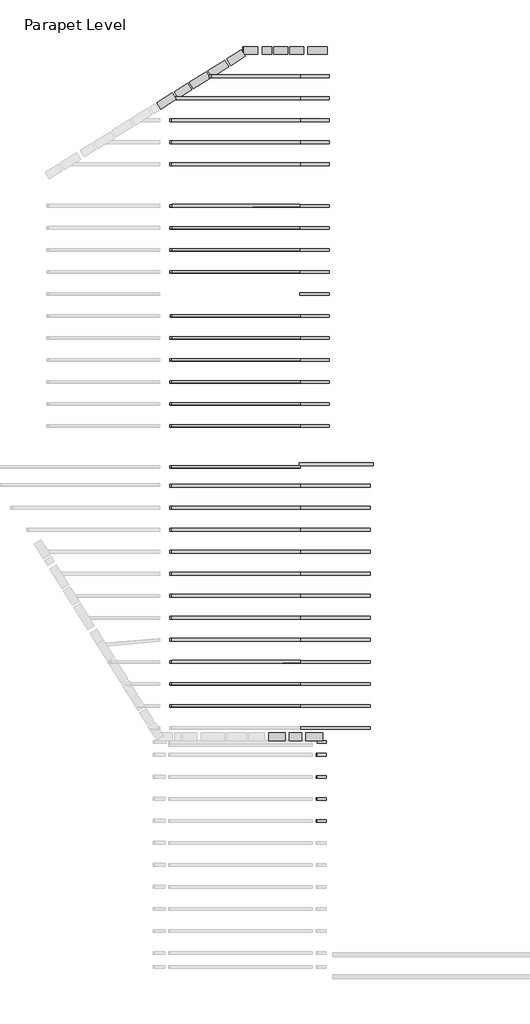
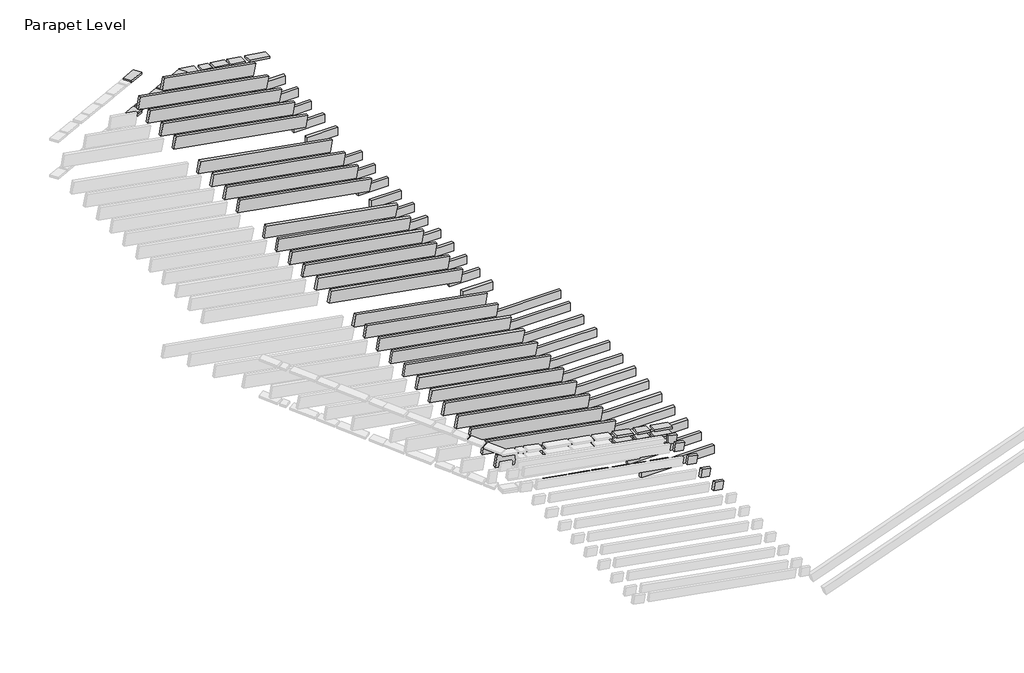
# One storey, part 4 of 4: 91 beams.
"""IFC4 building model written with IfcOpenShell, lengths in millimetres."""

from ifc_helpers import new_model, si_unit, frame, origin, place, context, project, spatial, polyline, outline, extrude, faceted_brep, transform, mapped, element, save
from components import beam_50x150_af16b9af, beam_50x150_175bfbe0, beam_50x150_b006d7be, beam_50x150_4be821b0, beam_50x150_ffa57ea8, beam_50x150_e260a1b6, beam_50x225_7f7f86ef, beam_50x225_d8450399, beam_50x225_8d1551ed, beam_50x225_024e5c33, beam_50x225_8d0f3e26

model = new_model("IFC4")

# Units and contexts
model_context = context("Model", 3, world=origin())
ifc_project = project(units=[si_unit("LENGTHUNIT", "METRE", prefix="MILLI")], contexts=[model_context])

# Site, building, storey
site = spatial("IfcSite", under=ifc_project)
building = spatial("IfcBuilding", under=site)
storey = spatial("IfcBuildingStorey", under=building, Name="Parapet Level", Elevation=4242.0)

# Beams
placement = place(None, origin())
element("IfcBeam", 1, ObjectType="Graded Timber : 38x140", at=placement, inside=storey, context=model_context, shape_type="Brep", body=[
    faceted_brep([(-30692.1893203, 18121.1963469, 3018.0119533), (-30425.1362414, 18288.0696311, 2970.9232902), (-30425.1362414, 18288.069631, 2932.5007924), (-30692.1893203, 18121.1963468, 2979.5894555), (-30618.0006214, 18002.4696146, 3018.0119533), (-30350.9475426, 18169.3428988, 2970.9232902), (-30350.9475425, 18169.3428987, 2932.5007924), (-30618.0006214, 18002.4696145, 2979.5894555)], [[[0, 1, 2, 3]], [[4, 5, 1, 0]], [[2, 1, 5, 6]], [[3, 2, 6, 7]], [[7, 6, 5, 4]], [[0, 3, 7, 4]]]),
])
element("IfcBeam", 2, ObjectType="Graded Timber : 38x140", at=placement, inside=storey, context=model_context, shape_type="Brep", body=[
    faceted_brep([(-31031.4085833, 17909.228626, 3077.8254617), (-30724.415148, 18101.0594149, 3023.6942362), (-30724.4151479, 18101.0594148, 2985.2717384), (-31031.4085833, 17909.228626, 3039.4029639), (-30957.2198844, 17790.5018938, 3077.8254617), (-30650.2264491, 17982.3326826, 3023.6942362), (-30650.226449, 17982.3326825, 2985.2717384), (-30957.2198844, 17790.5018937, 3039.4029639)], [[[0, 1, 2, 3]], [[4, 5, 1, 0]], [[2, 1, 5, 6]], [[3, 2, 6, 7]], [[7, 6, 5, 4]], [[0, 3, 7, 4]]]),
])
element("IfcBeam", 3, ObjectType="Graded Timber : 38x140", at=placement, inside=storey, context=model_context, shape_type="Brep", body=[
    faceted_brep([(-31370.6277974, 17697.2609358, 3137.6389615), (-31063.634411, 17889.091694, 3083.5077446), (-31063.6344109, 17889.0916939, 3045.0852468), (-31370.6277973, 17697.2609357, 3099.2164637), (-31296.4390985, 17578.5342035, 3137.6389615), (-30989.4457121, 17770.3649617, 3083.5077446), (-30989.445712, 17770.3649617, 3045.0852468), (-31296.4390984, 17578.5342034, 3099.2164637)], [[[0, 1, 2, 3]], [[4, 5, 1, 0]], [[2, 1, 5, 6]], [[3, 2, 6, 7]], [[7, 6, 5, 4]], [[0, 3, 7, 4]]]),
])
element("IfcBeam", 4, ObjectType="Graded Timber : 38x140", at=placement, inside=storey, context=model_context, shape_type="Brep", body=[
    faceted_brep([(-31646.2434531, 17525.0371597, 3186.2374379), (-31402.853625, 17677.1240037, 3143.3212444), (-31402.853625, 17677.1240037, 3104.8987466), (-31646.2434531, 17525.0371596, 3147.8149401), (-31572.0547543, 17406.3104274, 3186.2374379), (-31328.6649261, 17558.3972715, 3143.3212444), (-31328.6649261, 17558.3972714, 3104.8987466), (-31572.0547542, 17406.3104274, 3147.8149401)], [[[0, 1, 2, 3]], [[4, 5, 1, 0]], [[2, 1, 5, 6]], [[3, 2, 6, 7]], [[7, 6, 5, 4]], [[0, 3, 7, 4]]]),
])
element("IfcBeam", 5, ObjectType="Graded Timber : 38x140", at=placement, inside=storey, context=model_context, shape_type="Brep", body=[
    faceted_brep([(-31964.2614879, 17326.3174366, 3242.3125978), (-31964.2614878, 17326.3174365, 3203.8901), (-31890.0727889, 17207.5907043, 3203.8901), (-31890.072789, 17207.5907043, 3242.3125978), (-31678.4692808, 17504.9002277, 3191.9197208), (-31678.4692808, 17504.9002276, 3153.497223), (-31604.2805819, 17386.1734953, 3153.497223), (-31604.2805819, 17386.1734954, 3191.9197208)], [[[0, 1, 2, 3]], [[0, 4, 5, 1]], [[1, 5, 6, 2]], [[2, 6, 7, 3]], [[3, 7, 4, 0]], [[4, 7, 6, 5]]]),
])
element("IfcBeam", 6, ObjectType="Graded Timber : 38x140", at=placement, inside=storey, context=model_context, shape_type="SweptSolid", body=[
    extrude(outline(polyline([(2773.859651, -29295.5411236), (2808.7975385, -29544.1371106), (2770.4240908, -29544.1371106), (2735.4862032, -29295.5411236), (2773.859651, -29295.5411236)])), frame((0.0, 18207.3368111, 0.0), z_axis=(0.0, 1.0, 0.0), x_axis=(0.0, 0.0, 1.0)), (0.0, 0.0, 1.0), 140.0),
])
element("IfcBeam", 7, ObjectType="Graded Timber : 38x140", at=placement, inside=storey, context=model_context, shape_type="SweptSolid", body=[
    extrude(outline(polyline([(2814.1380902, -29582.1371106), (2850.1165439, -29838.1371106), (2811.7430962, -29838.1371106), (2775.7646425, -29582.1371106), (2814.1380902, -29582.1371106)])), frame((0.0, 18207.3368111, 0.0), z_axis=(0.0, 1.0, 0.0), x_axis=(0.0, 0.0, 1.0)), (0.0, 0.0, 1.0), 140.0),
])
element("IfcBeam", 8, ObjectType="Graded Timber : 38x140", at=placement, inside=storey, context=model_context, shape_type="SweptSolid", body=[
    extrude(outline(polyline([(2855.4570956, -29876.1371106), (2879.5463587, -30047.5411236), (2841.1729109, -30047.5411236), (2817.0836479, -29876.1371106), (2855.4570956, -29876.1371106)])), frame((0.0, 18207.3368111, 0.0), z_axis=(0.0, 1.0, 0.0), x_axis=(0.0, 0.0, 1.0)), (0.0, 0.0, 1.0), 140.0),
])
element("IfcBeam", 9, ObjectType="Graded Timber : 38x140", at=placement, inside=storey, context=model_context, shape_type="Brep", body=[
    faceted_brep([(-31964.2614816, 17326.3174265, 3922.5554279), (-31964.2614816, 17326.3174265, 3884.1712839), (-31890.0727827, 17207.5906942, 3884.1712836), (-31890.0727827, 17207.5906942, 3922.5554276), (-31678.4692745, 17504.9002177, 3874.5163205), (-31678.4692745, 17504.9002177, 3836.1321766), (-31604.2805756, 17386.1734854, 3836.1321762), (-31604.2805756, 17386.1734854, 3874.5163202)], [[[0, 1, 2, 3]], [[0, 4, 5, 1]], [[1, 5, 6, 2]], [[2, 6, 7, 3]], [[3, 7, 4, 0]], [[4, 7, 6, 5]]]),
])
element("IfcBeam", 10, ObjectType="Graded Timber : 38x140", at=placement, inside=storey, context=model_context, shape_type="SweptSolid", body=[
    extrude(outline(polyline([(2713.3422036, -28864.9371106), (2763.1785475, -29219.5411236), (2724.8050998, -29219.5411236), (2674.9687558, -28864.9371106), (2713.3422036, -28864.9371106)])), frame((0.0, 18207.3368111, 0.0), z_axis=(0.0, 1.0, 0.0), x_axis=(0.0, 0.0, 1.0)), (0.0, 0.0, 1.0), 140.0),
])
element("IfcBeam", 11, ObjectType="Graded Timber : 38x140", at=placement, inside=storey, context=model_context, shape_type="Brep", body=[
    faceted_brep([(-31964.2614878, 17326.3174365, 3203.8901), (-31678.4692807, 17504.9002276, 3153.497223), (-31678.4692807, 17504.9002275, 3115.0747252), (-31964.2614878, 17326.3174364, 3165.4676021), (-31890.0727889, 17207.5907042, 3203.8901), (-31604.2805818, 17386.1734953, 3153.497223), (-31604.2805818, 17386.1734952, 3115.0747252), (-31890.0727889, 17207.5907041, 3165.4676021)], [[[0, 1, 2, 3]], [[4, 5, 1, 0]], [[2, 1, 5, 6]], [[3, 2, 6, 7]], [[7, 6, 5, 4]], [[0, 3, 7, 4]]]),
])
element("IfcBeam", 12, ObjectType="Graded Timber : 38x140", at=placement, inside=storey, context=model_context, shape_type="SweptSolid", body=[
    extrude(outline(polyline([(43.5184454, 0.0), (275.035557, 0.0), (281.7358327, -38.0), (50.218721, -38.0), (43.5184454, 0.0)])), frame((-29285.0797794, 5877.1468145, 3398.3198085), z_axis=(0.0, -0.9999993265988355, 0.0011605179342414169), x_axis=(-0.9848084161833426, 0.00020151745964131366, 0.17364429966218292)), (0.0, 0.0, 1.0), 140.0),
])
element("IfcBeam", 13, ObjectType="Graded Timber : 38x140", at=placement, inside=storey, context=model_context, shape_type="SweptSolid", body=[
    extrude(outline(polyline([(77.3704853, -1e-07), (376.9211341, 0.0), (383.6214097, -38.0000001), (84.0707609, -38.0), (77.3704853, -1e-07)])), frame((-29555.7420056, 5877.0078045, 3446.0439893), z_axis=(0.0, -0.9999993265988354, 0.0011605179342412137), x_axis=(-0.98480841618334, 0.00020151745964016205, 0.17364429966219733)), (0.0, 0.0, 1.0), 140.0),
])
element("IfcBeam", 14, ObjectType="Graded Timber : 38x140", at=placement, inside=storey, context=model_context, shape_type="SweptSolid", body=[
    extrude(outline(polyline([(79.3339472, 0.0), (391.5774041, 0.0), (398.2776797, -37.9999999), (86.0342228, -38.0), (79.3339472, 0.0)])), frame((-28866.3083876, 5876.5061792, 3201.3867289), z_axis=(0.0, -0.9999993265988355, 0.0011605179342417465), x_axis=(-0.9848084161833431, 0.0002015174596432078, 0.1736442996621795)), (0.0, 0.0, 1.0), 140.0),
])
element("IfcBeam", 15, ObjectType="Graded Timber : 38x140", at=placement, inside=storey, context=model_context, shape_type="SweptSolid", body=[
    extrude(outline(polyline([(21.8287626, 0.0), (321.3794114, 0.0), (328.079687, -38.0), (28.5290382, -38.0), (21.8287626, 0.0)])), frame((-29610.4399616, 5876.6584479, 3332.7580372), z_axis=(0.0, -0.9999993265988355, 0.0011605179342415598), x_axis=(-0.9848084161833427, 0.000201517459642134, 0.17364429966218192)), (0.0, 0.0, 1.0), 140.0),
])
element("IfcBeam", 16, ObjectType="Graded Timber : 38x140", at=placement, inside=storey, context=model_context, shape_type="SweptSolid", body=[
    extrude(outline(polyline([(79.3552138, -1e-07), (513.7356259, 0.0), (520.4359016, -38.0), (86.0554894, -38.0), (79.3552138, -1e-07)])), frame((-30649.0059426, 5876.869041, 3477.3027108), z_axis=(0.0, -0.9999993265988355, 0.0011605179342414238), x_axis=(-0.9848084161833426, 0.00020151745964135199, 0.17364429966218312)), (0.0, 0.0, 1.0), 140.0),
])
element("IfcBeam", 17, ObjectType="Graded Timber : 38x140", at=placement, inside=storey, context=model_context, shape_type="SweptSolid", body=[
    extrude(outline(polyline([(10.1287882, 0.0), (377.7129742, 0.0), (384.4132498, -38.0), (16.8290639, -38.0), (10.1287882, 0.0)])), frame((-30317.1807091, 5876.8012889, 3418.6285976), z_axis=(0.0, -0.9999993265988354, 0.0011605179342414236), x_axis=(-0.9848084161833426, 0.00020151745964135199, 0.17364429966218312)), (0.0, 0.0, 1.0), 140.0),
])
element("IfcBeam", 18, ObjectType="Graded Timber : 38x140", at=placement, inside=storey, context=model_context, shape_type="SweptSolid", body=[
    extrude(outline(polyline([(205.8966171, 0.0), (496.5303176, 0.0), (503.2305933, -38.0), (212.5968928, -38.0), (205.8966171, 0.0)])), frame((-29800.1683893, 5876.6383504, 3327.6283234), z_axis=(0.0, -0.9999993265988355, 0.001160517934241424), x_axis=(-0.9848084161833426, 0.00020151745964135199, 0.17364429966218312)), (0.0, 0.0, 1.0), 140.0),
])
element("IfcBeam", 19, ObjectType="Graded Timber : 38x140", at=placement, inside=storey, context=model_context, shape_type="SweptSolid", body=[
    extrude(outline(polyline([(49.0694342, -1e-07), (280.5865458, -1e-07), (287.2868215, -38.0), (55.7697098, -38.0), (49.0694342, -1e-07)])), frame((-29279.6131189, 5876.5907522, 3274.4256809), z_axis=(0.0, -0.9999993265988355, 0.0011605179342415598), x_axis=(-0.9848084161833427, 0.000201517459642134, 0.17364429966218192)), (0.0, 0.0, 1.0), 140.0),
])
element("IfcBeam", 20, ObjectType="Graded Timber : 38x140", at=placement, inside=storey, context=model_context, shape_type="SweptSolid", body=[
    extrude(outline(polyline([(21.949404, 0.0), (321.5000528, 0.0), (328.2003284, -38.0), (28.6496796, -38.0), (21.949404, 0.0)])), frame((-29610.3211529, 5876.5857881, 3294.1509292), z_axis=(0.0, -0.9999993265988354, 0.0011605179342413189), x_axis=(-0.9848084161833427, 0.00020151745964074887, 0.17364429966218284)), (0.0, 0.0, 1.0), 140.0),
])
element("IfcBeam", 21, ObjectType="Graded Timber : 38x140", at=placement, inside=storey, context=model_context, shape_type="SweptSolid", body=[
    extrude(outline(polyline([(41.9419543, 0.0), (273.4590659, 0.0), (280.1593416, -38.0), (48.6422299, -38.0), (41.9419543, 0.0)])), frame((-29286.6323211, 5876.5195529, 3237.0771679), z_axis=(0.0, -0.9999993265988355, 0.001160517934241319), x_axis=(-0.9848084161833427, 0.00020151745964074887, 0.17364429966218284)), (0.0, 0.0, 1.0), 140.0),
])
element("IfcBeam", 22, ObjectType="Graded Timber : 38x140", at=placement, inside=storey, context=model_context, shape_type="SweptSolid", body=[
    extrude(outline(polyline([(79.2278259, 0.0), (391.4712827, 0.0), (398.1715583, -38.0), (85.9281015, -38.0), (79.2278259, 0.0)])), frame((-28866.4128968, 5876.4472797, 3162.9814695), z_axis=(0.0, -0.9999993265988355, 0.001160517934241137), x_axis=(-0.9848084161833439, 0.0002015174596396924, 0.17364429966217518)), (0.0, 0.0, 1.0), 140.0),
])
element("IfcBeam", 23, ObjectType="Graded Timber : 38x140", at=placement, inside=storey, context=model_context, shape_type="SweptSolid", body=[
    extrude(outline(polyline([(21.3074799, 0.0), (333.5509367, 0.0), (340.2512123, -38.0), (28.0077555, -38.0), (21.3074799, 0.0)])), frame((-28923.453341, 5877.0728163, 3334.5567775), z_axis=(0.0, -0.9999993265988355, 0.0011605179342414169), x_axis=(-0.9848084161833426, 0.00020151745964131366, 0.17364429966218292)), (0.0, 0.0, 1.0), 140.0),
])
element("IfcBeam", 24, ObjectType="Graded Timber : 38x140", at=placement, inside=storey, context=model_context, shape_type="SweptSolid", body=[
    extrude(outline(polyline([(8.2007114, 0.0), (442.5811235, 0.0), (449.2813992, -38.0), (14.900987, -38.0), (8.2007114, 0.0)])), frame((-30719.0794954, 5876.8853045, 2993.4407549), z_axis=(0.0, -0.9999993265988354, 0.0011605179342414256), x_axis=(-0.9848084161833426, 0.00020151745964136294, 0.17364429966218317)), (0.0, 0.0, 1.0), 140.0),
])
element("IfcBeam", 25, ObjectType="Graded Timber : 38x140", at=placement, inside=storey, context=model_context, shape_type="SweptSolid", body=[
    extrude(outline(polyline([(15.5972995, 0.0), (383.7850244, 0.0), (390.4853, -37.9999999), (22.2975751, -38.0), (15.5972995, 0.0)])), frame((-30311.200903, 5876.8018419, 2921.5224088), z_axis=(0.0, -0.9999993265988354, 0.0011605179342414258), x_axis=(-0.9848084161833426, 0.00020151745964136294, 0.17364429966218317)), (0.0, 0.0, 1.0), 140.0),
])
element("IfcBeam", 26, ObjectType="Graded Timber : 38x140", at=placement, inside=storey, context=model_context, shape_type="SweptSolid", body=[
    extrude(outline(polyline([(198.2502057, 0.0), (488.8839062, 0.0), (495.5841819, -38.0), (204.9504813, -38.0), (198.2502057, 0.0)])), frame((-29807.6986396, 5876.6988122, 2832.7434174), z_axis=(0.0, -0.9999993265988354, 0.0011605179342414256), x_axis=(-0.9848084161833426, 0.00020151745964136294, 0.17364429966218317)), (0.0, 0.0, 1.0), 140.0),
])
element("IfcBeam", 27, ObjectType="Graded Timber : 38x140", at=placement, inside=storey, context=model_context, shape_type="SweptSolid", body=[
    extrude(outline(polyline([(30.0793576, 0.0), (329.6300064, 0.0), (336.330282, -38.0), (36.7796332, -37.9999999), (30.0793576, 0.0)])), frame((-29602.3147062, 5876.6567853, 2796.5295217), z_axis=(0.0, -0.9999993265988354, 0.0011605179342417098), x_axis=(-0.9848084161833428, 0.00020151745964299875, 0.173644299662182)), (0.0, 0.0, 1.0), 140.0),
])
element("IfcBeam", 28, ObjectType="Graded Timber : 38x140", at=placement, inside=storey, context=model_context, shape_type="SweptSolid", body=[
    extrude(outline(polyline([(16.8012714, 0.0), (248.318383, 0.0), (255.0186587, -38.0), (23.5015471, -38.0), (16.8012714, 0.0)])), frame((-29311.3910772, 5876.5972548, 2745.2330167), z_axis=(0.0, -0.9999993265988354, 0.0011605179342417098), x_axis=(-0.9848084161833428, 0.00020151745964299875, 0.173644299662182)), (0.0, 0.0, 1.0), 140.0),
])
element("IfcBeam", 29, ObjectType="Graded Timber : 38x140", at=placement, inside=storey, context=model_context, shape_type="SweptSolid", body=[
    extrude(outline(polyline([(20.3626327, 0.0), (332.6060896, 0.0), (339.3063652, -38.0), (27.0629084, -38.0), (20.3626327, 0.0)])), frame((-28924.3838344, 5876.518063, 2676.994768), z_axis=(0.0, -0.9999993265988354, 0.0011605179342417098), x_axis=(-0.9848084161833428, 0.00020151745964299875, 0.173644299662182)), (0.0, 0.0, 1.0), 140.0),
])
element("IfcBeam", 30, ObjectType="Graded Timber : 38x140", at=placement, inside=storey, context=model_context, shape_type="SweptSolid", body=[
    extrude(outline(polyline([(2890.2274621, -30123.5411236), (2927.8183343, -30391.0140774), (2890.1881477, -30396.3026553), (2851.8540144, -30123.5411236), (2890.2274621, -30123.5411236)])), frame((0.0, 18207.3368111, 0.0), z_axis=(0.0, 1.0, 0.0), x_axis=(0.0, 0.0, 1.0)), (0.0, 0.0, 1.0), 140.0),
])
element("IfcBeam", 31, ObjectType="Graded Timber : 50x150", at=placement, inside=storey, context=model_context, shape_type="SweptSolid", body=[
    extrude(outline(polyline([(3096.1045675, -28913.292776), (3243.8257304, -28887.2455494), (3271.0884943, -29041.8603666), (3269.5359093, -29042.1341292), (3118.8227743, -29042.1341292), (3096.1045675, -28913.292776)])), frame((0.0, 5686.5550859, 0.0), z_axis=(0.0, 1.0, 0.0), x_axis=(0.0, 0.0, 1.0)), (0.0, 0.0, 1.0), 50.0),
])
beam_50x150_shape = beam_50x150_af16b9af(model_context)
element("IfcBeam", 32, ObjectType="Graded Timber : 50x150", at=placement, inside=storey, context=model_context, shape_type="MappedRepresentation", body=[
    mapped(beam_50x150_shape, transform((-29104.3541596, 17807.2459484, 2527.4), x_axis=(1.0, 0.0, 0.0), y_axis=(0.0, 1.0, 0.0), z_axis=(0.0, 0.0, 1.0))),
])
element("IfcBeam", 33, ObjectType="Graded Timber : 50x150", at=placement, inside=storey, context=model_context, shape_type="MappedRepresentation", body=[
    mapped(beam_50x150_shape, transform((-29104.3541596, 17407.2459484, 2527.4), x_axis=(1.0, 0.0, 0.0), y_axis=(0.0, 1.0, 0.0), z_axis=(0.0, 0.0, 1.0))),
])
element("IfcBeam", 34, ObjectType="Graded Timber : 50x150", at=placement, inside=storey, context=model_context, shape_type="MappedRepresentation", body=[
    mapped(beam_50x150_shape, transform((-29104.3541596, 17007.2459484, 2527.4), x_axis=(1.0, 0.0, 0.0), y_axis=(0.0, 1.0, 0.0), z_axis=(0.0, 0.0, 1.0))),
])
element("IfcBeam", 35, ObjectType="Graded Timber : 50x150", at=placement, inside=storey, context=model_context, shape_type="MappedRepresentation", body=[
    mapped(beam_50x150_shape, transform((-29104.3541596, 16607.2459484, 2527.4), x_axis=(1.0, 0.0, 0.0), y_axis=(0.0, 1.0, 0.0), z_axis=(0.0, 0.0, 1.0))),
])
element("IfcBeam", 36, ObjectType="Graded Timber : 50x150", at=placement, inside=storey, context=model_context, shape_type="MappedRepresentation", body=[
    mapped(beam_50x150_shape, transform((-29104.3541596, 16207.2459484, 2527.4), x_axis=(1.0, 0.0, 0.0), y_axis=(0.0, 1.0, 0.0), z_axis=(0.0, 0.0, 1.0))),
])
beam_50x150_2_shape = beam_50x150_175bfbe0(model_context)
element("IfcBeam", 37, ObjectType="Graded Timber : 50x150", at=placement, inside=storey, context=model_context, shape_type="MappedRepresentation", body=[
    mapped(beam_50x150_2_shape, transform((-28702.5621107, 10758.3305276, 2502.0), x_axis=(1.0, 0.0, 0.0), y_axis=(0.0, 1.0, 0.0), z_axis=(0.0, 0.0, 1.0))),
])
beam_50x150_3_shape = beam_50x150_b006d7be(model_context)
element("IfcBeam", 38, ObjectType="Graded Timber : 50x150", at=placement, inside=storey, context=model_context, shape_type="MappedRepresentation", body=[
    mapped(beam_50x150_3_shape, transform((-28977.577774, 4278.787171, 3183.596743), x_axis=(0.9848077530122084, 0.0, -0.17364817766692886), y_axis=(0.0, 1.0, 0.0), z_axis=(0.17364817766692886, 0.0, 0.9848077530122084))),
])
element("IfcBeam", 39, ObjectType="Graded Timber : 50x150", at=placement, inside=storey, context=model_context, shape_type="MappedRepresentation", body=[
    mapped(beam_50x150_3_shape, transform((-28977.5773731, 4678.787171, 3183.5966723), x_axis=(0.9848077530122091, 0.0, -0.17364817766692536), y_axis=(0.0, 1.0000000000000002, 0.0), z_axis=(0.1736481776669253, 0.0, 0.9848077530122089))),
])
element("IfcBeam", 40, ObjectType="Graded Timber : 50x150", at=placement, inside=storey, context=model_context, shape_type="MappedRepresentation", body=[
    mapped(beam_50x150_3_shape, transform((-28977.5769722, 5078.787171, 3183.5966016), x_axis=(0.9848077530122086, 0.0, -0.17364817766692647), y_axis=(0.0, 0.9999999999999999, 0.0), z_axis=(0.1736481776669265, 0.0, 0.9848077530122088))),
])
element("IfcBeam", 41, ObjectType="Graded Timber : 50x150", at=placement, inside=storey, context=model_context, shape_type="MappedRepresentation", body=[
    mapped(beam_50x150_3_shape, transform((-28977.5765713, 5480.513771, 3183.5965309), x_axis=(0.984807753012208, 0.0, -0.173648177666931), y_axis=(0.0, 1.0000000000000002, 0.0), z_axis=(0.173648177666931, 0.0, 0.984807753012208))),
])
beam_50x150_4_shape = beam_50x150_4be821b0(model_context)
element("IfcBeam", 42, ObjectType="Graded Timber : 50x150", at=placement, inside=storey, context=model_context, shape_type="MappedRepresentation", body=[
    mapped(beam_50x150_4_shape, transform((-29099.3541596, 15452.6961995, 2527.4), x_axis=(1.0, 0.0, 0.0), y_axis=(0.0, 1.0, 0.0), z_axis=(0.0, 0.0, 1.0))),
])
element("IfcBeam", 43, ObjectType="Graded Timber : 50x150", at=placement, inside=storey, context=model_context, shape_type="MappedRepresentation", body=[
    mapped(beam_50x150_4_shape, transform((-29099.3541596, 15052.6961995, 2527.4), x_axis=(1.0, 0.0, 0.0), y_axis=(0.0, 1.0, 0.0), z_axis=(0.0, 0.0, 1.0))),
])
element("IfcBeam", 44, ObjectType="Graded Timber : 50x150", at=placement, inside=storey, context=model_context, shape_type="MappedRepresentation", body=[
    mapped(beam_50x150_4_shape, transform((-29099.3541596, 14652.6961995, 2527.4), x_axis=(1.0, 0.0, 0.0), y_axis=(0.0, 1.0, 0.0), z_axis=(0.0, 0.0, 1.0))),
])
element("IfcBeam", 45, ObjectType="Graded Timber : 50x150", at=placement, inside=storey, context=model_context, shape_type="MappedRepresentation", body=[
    mapped(beam_50x150_4_shape, transform((-29099.3541596, 14252.6961995, 2527.4), x_axis=(1.0, 0.0, 0.0), y_axis=(0.0, 1.0, 0.0), z_axis=(0.0, 0.0, 1.0))),
])
element("IfcBeam", 46, ObjectType="Graded Timber : 50x150", at=placement, inside=storey, context=model_context, shape_type="MappedRepresentation", body=[
    mapped(beam_50x150_4_shape, transform((-29099.3541596, 13852.6961995, 2527.4), x_axis=(1.0, 0.0, 0.0), y_axis=(0.0, 1.0, 0.0), z_axis=(0.0, 0.0, 1.0))),
])
element("IfcBeam", 47, ObjectType="Graded Timber : 50x150", at=placement, inside=storey, context=model_context, shape_type="MappedRepresentation", body=[
    mapped(beam_50x150_4_shape, transform((-29099.3541596, 13052.6961995, 2527.4), x_axis=(1.0, 0.0, 0.0), y_axis=(0.0, 1.0, 0.0), z_axis=(0.0, 0.0, 1.0))),
])
element("IfcBeam", 48, ObjectType="Graded Timber : 50x150", at=placement, inside=storey, context=model_context, shape_type="MappedRepresentation", body=[
    mapped(beam_50x150_4_shape, transform((-29099.3541596, 12652.6961995, 2527.4), x_axis=(1.0, 0.0, 0.0), y_axis=(0.0, 1.0, 0.0), z_axis=(0.0, 0.0, 1.0))),
])
element("IfcBeam", 49, ObjectType="Graded Timber : 50x150", at=placement, inside=storey, context=model_context, shape_type="MappedRepresentation", body=[
    mapped(beam_50x150_4_shape, transform((-29099.3541596, 12252.6961995, 2527.4), x_axis=(1.0, 0.0, 0.0), y_axis=(0.0, 1.0, 0.0), z_axis=(0.0, 0.0, 1.0))),
])
element("IfcBeam", 50, ObjectType="Graded Timber : 50x150", at=placement, inside=storey, context=model_context, shape_type="MappedRepresentation", body=[
    mapped(beam_50x150_4_shape, transform((-29099.3541596, 11852.6961995, 2527.4), x_axis=(1.0, 0.0, 0.0), y_axis=(0.0, 1.0, 0.0), z_axis=(0.0, 0.0, 1.0))),
])
element("IfcBeam", 51, ObjectType="Graded Timber : 50x150", at=placement, inside=storey, context=model_context, shape_type="MappedRepresentation", body=[
    mapped(beam_50x150_4_shape, transform((-29099.3541596, 11452.6961995, 2527.4), x_axis=(1.0, 0.0, 0.0), y_axis=(0.0, 1.0, 0.0), z_axis=(0.0, 0.0, 1.0))),
])
beam_50x150_5_shape = beam_50x150_ffa57ea8(model_context)
element("IfcBeam", 52, ObjectType="Graded Timber : 50x150", at=placement, inside=storey, context=model_context, shape_type="MappedRepresentation", body=[
    mapped(beam_50x150_5_shape, transform((-28730.0621107, 10368.3307824, 2527.4), x_axis=(1.0, 0.0, 0.0), y_axis=(0.0, 1.0, 0.0), z_axis=(0.0, 0.0, 1.0))),
])
element("IfcBeam", 53, ObjectType="Graded Timber : 50x150", at=placement, inside=storey, context=model_context, shape_type="MappedRepresentation", body=[
    mapped(beam_50x150_5_shape, transform((-28730.0621107, 9968.3307824, 2527.4), x_axis=(1.0, 0.0, 0.0), y_axis=(0.0, 1.0, 0.0), z_axis=(0.0, 0.0, 1.0))),
])
element("IfcBeam", 54, ObjectType="Graded Timber : 50x150", at=placement, inside=storey, context=model_context, shape_type="MappedRepresentation", body=[
    mapped(beam_50x150_5_shape, transform((-28730.0621107, 9568.3307824, 2527.4), x_axis=(1.0, 0.0, 0.0), y_axis=(0.0, 1.0, 0.0), z_axis=(0.0, 0.0, 1.0))),
])
element("IfcBeam", 55, ObjectType="Graded Timber : 50x150", at=placement, inside=storey, context=model_context, shape_type="MappedRepresentation", body=[
    mapped(beam_50x150_5_shape, transform((-28730.0621107, 9168.3307824, 2527.4), x_axis=(1.0, 0.0, 0.0), y_axis=(0.0, 1.0, 0.0), z_axis=(0.0, 0.0, 1.0))),
])
element("IfcBeam", 56, ObjectType="Graded Timber : 50x150", at=placement, inside=storey, context=model_context, shape_type="MappedRepresentation", body=[
    mapped(beam_50x150_5_shape, transform((-28730.0621107, 8768.3307824, 2527.4), x_axis=(1.0, 0.0, 0.0), y_axis=(0.0, 1.0, 0.0), z_axis=(0.0, 0.0, 1.0))),
])
element("IfcBeam", 57, ObjectType="Graded Timber : 50x150", at=placement, inside=storey, context=model_context, shape_type="MappedRepresentation", body=[
    mapped(beam_50x150_5_shape, transform((-28730.0621107, 8368.3307824, 2527.4), x_axis=(1.0, 0.0, 0.0), y_axis=(0.0, 1.0, 0.0), z_axis=(0.0, 0.0, 1.0))),
])
element("IfcBeam", 58, ObjectType="Graded Timber : 50x150", at=placement, inside=storey, context=model_context, shape_type="MappedRepresentation", body=[
    mapped(beam_50x150_5_shape, transform((-28730.0621107, 7968.3307824, 2527.4), x_axis=(1.0, 0.0, 0.0), y_axis=(0.0, 1.0, 0.0), z_axis=(0.0, 0.0, 1.0))),
])
element("IfcBeam", 59, ObjectType="Graded Timber : 50x150", at=placement, inside=storey, context=model_context, shape_type="MappedRepresentation", body=[
    mapped(beam_50x150_5_shape, transform((-28730.0621107, 7568.3307824, 2527.4), x_axis=(1.0, 0.0, 0.0), y_axis=(0.0, 1.0, 0.0), z_axis=(0.0, 0.0, 1.0))),
])
element("IfcBeam", 60, ObjectType="Graded Timber : 50x150", at=placement, inside=storey, context=model_context, shape_type="MappedRepresentation", body=[
    mapped(beam_50x150_5_shape, transform((-28730.0621107, 7168.3307824, 2527.4), x_axis=(1.0, 0.0, 0.0), y_axis=(0.0, 1.0, 0.0), z_axis=(0.0, 0.0, 1.0))),
])
element("IfcBeam", 61, ObjectType="Graded Timber : 50x150", at=placement, inside=storey, context=model_context, shape_type="MappedRepresentation", body=[
    mapped(beam_50x150_5_shape, transform((-28730.0621107, 6768.3307824, 2527.4), x_axis=(1.0, 0.0, 0.0), y_axis=(0.0, 1.0, 0.0), z_axis=(0.0, 0.0, 1.0))),
])
element("IfcBeam", 62, ObjectType="Graded Timber : 50x150", at=placement, inside=storey, context=model_context, shape_type="MappedRepresentation", body=[
    mapped(beam_50x150_5_shape, transform((-28730.0621107, 6368.3307824, 2527.4), x_axis=(1.0, 0.0, 0.0), y_axis=(0.0, 1.0, 0.0), z_axis=(0.0, 0.0, 1.0))),
])
element("IfcBeam", 63, ObjectType="Graded Timber : 50x150", at=placement, inside=storey, context=model_context, shape_type="MappedRepresentation", body=[
    mapped(beam_50x150_5_shape, transform((-28730.0621107, 5968.3307824, 2527.4), x_axis=(1.0, 0.0, 0.0), y_axis=(0.0, 1.0, 0.0), z_axis=(0.0, 0.0, 1.0))),
])
beam_50x150_6_shape = beam_50x150_e260a1b6(model_context)
element("IfcBeam", 64, ObjectType="Graded Timber : 50x150", at=placement, inside=storey, context=model_context, shape_type="MappedRepresentation", body=[
    mapped(beam_50x150_6_shape, transform((-29099.3541596, 13452.6961995, 2527.4), x_axis=(1.0, -5.179963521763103e-12, 0.0), y_axis=(5.179963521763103e-12, 1.0, 0.0), z_axis=(0.0, 0.0, 1.0))),
])
beam_50x225_shape = beam_50x225_7f7f86ef(model_context)
element("IfcBeam", 65, ObjectType="Graded Timber : 50x225", at=placement, inside=storey, context=model_context, shape_type="MappedRepresentation", body=[
    mapped(beam_50x225_shape, transform((-30540.38895, 6368.2076771, 3123.8479427), x_axis=(0.9848083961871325, 0.0, -0.17364453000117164), y_axis=(-0.00019845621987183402, 0.999999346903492, -0.0011255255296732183), z_axis=(0.1736444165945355, 0.001142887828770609, 0.9848077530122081))),
])
element("IfcBeam", 66, ObjectType="Graded Timber : 50x225", at=placement, inside=storey, context=model_context, shape_type="MappedRepresentation", body=[
    mapped(beam_50x225_shape, transform((-30540.4680128, 6768.2074158, 3123.3976762), x_axis=(0.9848083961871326, 0.0, -0.17364453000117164), y_axis=(-0.00019845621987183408, 0.9999993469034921, -0.0011255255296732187), z_axis=(0.1736444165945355, 0.0011428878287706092, 0.9848077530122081))),
])
element("IfcBeam", 67, ObjectType="Graded Timber : 50x225", at=placement, inside=storey, context=model_context, shape_type="MappedRepresentation", body=[
    mapped(beam_50x225_shape, transform((-30540.5470755, 7168.2071546, 3122.9474096), x_axis=(0.9848083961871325, 0.0, -0.17364453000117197), y_axis=(-0.00019845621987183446, 0.9999993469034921, -0.0011255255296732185), z_axis=(0.17364441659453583, 0.0011428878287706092, 0.9848077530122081))),
])
element("IfcBeam", 68, ObjectType="Graded Timber : 50x225", at=placement, inside=storey, context=model_context, shape_type="MappedRepresentation", body=[
    mapped(beam_50x225_shape, transform((-30540.6261383, 7568.2068934, 3122.497143), x_axis=(0.9848083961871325, 0.0, -0.17364453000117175), y_axis=(-0.00019845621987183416, 0.9999993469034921, -0.0011255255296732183), z_axis=(0.1736444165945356, 0.001142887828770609, 0.9848077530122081))),
])
element("IfcBeam", 69, ObjectType="Graded Timber : 50x225", at=placement, inside=storey, context=model_context, shape_type="MappedRepresentation", body=[
    mapped(beam_50x225_shape, transform((-30540.705201, 7968.2066321, 3122.0468764), x_axis=(0.9848083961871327, 0.0, -0.17364453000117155), y_axis=(-0.00019845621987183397, 0.9999993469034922, -0.0011255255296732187), z_axis=(0.17364441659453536, 0.0011428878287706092, 0.9848077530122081))),
])
element("IfcBeam", 70, ObjectType="Graded Timber : 50x225", at=placement, inside=storey, context=model_context, shape_type="MappedRepresentation", body=[
    mapped(beam_50x225_shape, transform((-30540.7842638, 8368.2063709, 3121.5966098), x_axis=(0.9848083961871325, 0.0, -0.17364453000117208), y_axis=(-0.0001984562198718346, 0.9999993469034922, -0.0011255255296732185), z_axis=(0.17364441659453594, 0.0011428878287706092, 0.9848077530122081))),
])
element("IfcBeam", 71, ObjectType="Graded Timber : 50x225", at=placement, inside=storey, context=model_context, shape_type="MappedRepresentation", body=[
    mapped(beam_50x225_shape, transform((-30540.8633266, 8768.2061096, 3121.1463432), x_axis=(0.9848083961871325, 0.0, -0.17364453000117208), y_axis=(-0.0001984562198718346, 0.9999993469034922, -0.0011255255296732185), z_axis=(0.17364441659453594, 0.0011428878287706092, 0.9848077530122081))),
])
element("IfcBeam", 72, ObjectType="Graded Timber : 50x225", at=placement, inside=storey, context=model_context, shape_type="MappedRepresentation", body=[
    mapped(beam_50x225_shape, transform((-30540.9423893, 9168.2058484, 3120.6960766), x_axis=(0.9848083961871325, 0.0, -0.1736445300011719), y_axis=(-0.00019845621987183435, 0.9999993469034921, -0.0011255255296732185), z_axis=(0.17364441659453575, 0.0011428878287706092, 0.9848077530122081))),
])
element("IfcBeam", 73, ObjectType="Graded Timber : 50x225", at=placement, inside=storey, context=model_context, shape_type="MappedRepresentation", body=[
    mapped(beam_50x225_shape, transform((-30541.0214521, 9568.2055872, 3120.24581), x_axis=(0.9848083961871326, 0.0, -0.17364453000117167), y_axis=(-0.0001984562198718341, 0.9999993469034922, -0.0011255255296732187), z_axis=(0.17364441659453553, 0.0011428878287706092, 0.9848077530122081))),
])
element("IfcBeam", 74, ObjectType="Graded Timber : 50x225", at=placement, inside=storey, context=model_context, shape_type="MappedRepresentation", body=[
    mapped(beam_50x225_shape, transform((-30541.1005148, 9968.2053259, 3119.7955435), x_axis=(0.9848083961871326, 0.0, -0.173644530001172), y_axis=(-0.0001984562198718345, 0.9999993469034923, -0.001125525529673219), z_axis=(0.17364441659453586, 0.0011428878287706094, 0.9848077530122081))),
])
element("IfcBeam", 75, ObjectType="Graded Timber : 50x225", at=placement, inside=storey, context=model_context, shape_type="MappedRepresentation", body=[
    mapped(beam_50x225_shape, transform((-30541.1795776, 10368.2050647, 3119.3452769), x_axis=(0.9848083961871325, 0.0, -0.17364453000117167), y_axis=(-0.00019845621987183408, 0.9999993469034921, -0.0011255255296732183), z_axis=(0.17364441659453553, 0.001142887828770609, 0.9848077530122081))),
])
element("IfcBeam", 76, ObjectType="Graded Timber : 50x225", at=placement, inside=storey, context=model_context, shape_type="MappedRepresentation", body=[
    mapped(beam_50x225_shape, transform((-30541.2467329, 10708.2048426, 3118.9625418), x_axis=(0.9848083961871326, 0.0, -0.1736445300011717), y_axis=(-0.00019845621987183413, 0.9999993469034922, -0.0011255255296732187), z_axis=(0.17364441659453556, 0.0011428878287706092, 0.9848077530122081))),
])
element("IfcBeam", 77, ObjectType="Graded Timber : 50x225", at=placement, inside=storey, context=model_context, shape_type="MappedRepresentation", body=[
    mapped(beam_50x225_shape, transform((-30542.351604, 16207.1202307, 3112.7757619), x_axis=(0.9848083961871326, 0.0, -0.17364453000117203), y_axis=(-0.00019845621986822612, 0.9999993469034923, -0.0011255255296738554), z_axis=(0.1736444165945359, 0.0011428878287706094, 0.9848077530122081))),
])
element("IfcBeam", 78, ObjectType="Graded Timber : 50x225", at=placement, inside=storey, context=model_context, shape_type="MappedRepresentation", body=[
    mapped(beam_50x225_shape, transform((-30542.4309865, 16607.1199695, 3112.3255517), x_axis=(0.9848083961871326, 0.0, -0.1736445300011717), y_axis=(-0.00019845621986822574, 0.9999993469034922, -0.0011255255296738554), z_axis=(0.17364441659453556, 0.0011428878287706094, 0.9848077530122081))),
])
element("IfcBeam", 79, ObjectType="Graded Timber : 50x225", at=placement, inside=storey, context=model_context, shape_type="MappedRepresentation", body=[
    mapped(beam_50x225_shape, transform((-30542.510369, 17007.1197082, 3111.8753415), x_axis=(0.9848083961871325, 0.0, -0.17364453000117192), y_axis=(-0.000198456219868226, 0.9999993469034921, -0.0011255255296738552), z_axis=(0.17364441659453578, 0.0011428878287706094, 0.9848077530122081))),
])
beam_50x225_2_shape = beam_50x225_d8450399(model_context)
element("IfcBeam", 80, ObjectType="Graded Timber : 50x225", at=placement, inside=storey, context=model_context, shape_type="MappedRepresentation", body=[
    mapped(beam_50x225_2_shape, transform((-30538.8277048, 13452.5659526, 3111.8795953), x_axis=(0.9848083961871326, 0.0, -0.1736445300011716), y_axis=(-0.00019845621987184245, 0.9999993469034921, -0.0011255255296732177), z_axis=(0.1736444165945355, 0.0011428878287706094, 0.9848077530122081))),
])
beam_50x225_3_shape = beam_50x225_8d1551ed(model_context)
element("IfcBeam", 81, ObjectType="Graded Timber : 50x225", at=placement, inside=storey, context=model_context, shape_type="MappedRepresentation", body=[
    mapped(beam_50x225_3_shape, transform((-30543.279086, 11452.5730942, 3112.3931978), x_axis=(0.9848083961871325, 0.0, -0.1736445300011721), y_axis=(-0.00019845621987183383, 0.9999993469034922, -0.0011255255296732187), z_axis=(0.17364441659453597, 0.0011428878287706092, 0.9848077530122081))),
])
element("IfcBeam", 82, ObjectType="Graded Timber : 50x225", at=placement, inside=storey, context=model_context, shape_type="MappedRepresentation", body=[
    mapped(beam_50x225_3_shape, transform((-30543.3595803, 11852.572833, 3111.9431836), x_axis=(0.9848083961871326, 0.0, -0.1736445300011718), y_axis=(-0.0001984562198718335, 0.9999993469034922, -0.0011255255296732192), z_axis=(0.17364441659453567, 0.0011428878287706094, 0.9848077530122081))),
])
element("IfcBeam", 83, ObjectType="Graded Timber : 50x225", at=placement, inside=storey, context=model_context, shape_type="MappedRepresentation", body=[
    mapped(beam_50x225_3_shape, transform((-30543.4400747, 12252.5725718, 3111.4931694), x_axis=(0.9848083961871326, 0.0, -0.1736445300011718), y_axis=(-0.0001984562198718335, 0.9999993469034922, -0.0011255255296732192), z_axis=(0.17364441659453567, 0.0011428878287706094, 0.9848077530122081))),
])
element("IfcBeam", 84, ObjectType="Graded Timber : 50x225", at=placement, inside=storey, context=model_context, shape_type="MappedRepresentation", body=[
    mapped(beam_50x225_3_shape, transform((-30543.5205691, 12652.5723105, 3111.0431553), x_axis=(0.9848083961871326, 0.0, -0.17364453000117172), y_axis=(-0.00019845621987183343, 0.9999993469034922, -0.0011255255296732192), z_axis=(0.17364441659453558, 0.0011428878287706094, 0.9848077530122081))),
])
element("IfcBeam", 85, ObjectType="Graded Timber : 50x225", at=placement, inside=storey, context=model_context, shape_type="MappedRepresentation", body=[
    mapped(beam_50x225_3_shape, transform((-30543.6010634, 13052.5720493, 3110.5931411), x_axis=(0.9848083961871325, 0.0, -0.17364453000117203), y_axis=(-0.00019845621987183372, 0.9999993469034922, -0.0011255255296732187), z_axis=(0.1736444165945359, 0.0011428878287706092, 0.9848077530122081))),
])
element("IfcBeam", 86, ObjectType="Graded Timber : 50x225", at=placement, inside=storey, context=model_context, shape_type="MappedRepresentation", body=[
    mapped(beam_50x225_3_shape, transform((-30543.8425465, 14252.5712656, 3109.2430986), x_axis=(0.9848083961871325, 0.0, -0.17364453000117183), y_axis=(-0.0001984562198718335, 0.9999993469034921, -0.0011255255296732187), z_axis=(0.1736444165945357, 0.0011428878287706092, 0.9848077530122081))),
])
element("IfcBeam", 87, ObjectType="Graded Timber : 50x225", at=placement, inside=storey, context=model_context, shape_type="MappedRepresentation", body=[
    mapped(beam_50x225_3_shape, transform((-30543.9230409, 14652.5710043, 3108.7930845), x_axis=(0.9848083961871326, 0.0, -0.17364453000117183), y_axis=(-0.00019845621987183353, 0.9999993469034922, -0.0011255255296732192), z_axis=(0.1736444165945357, 0.0011428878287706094, 0.9848077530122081))),
])
element("IfcBeam", 88, ObjectType="Graded Timber : 50x225", at=placement, inside=storey, context=model_context, shape_type="MappedRepresentation", body=[
    mapped(beam_50x225_3_shape, transform((-30544.0035352, 15052.5707431, 3108.3430703), x_axis=(0.9848083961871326, 0.0, -0.17364453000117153), y_axis=(-0.0001984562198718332, 0.9999993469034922, -0.0011255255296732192), z_axis=(0.1736444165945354, 0.0011428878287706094, 0.9848077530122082))),
])
element("IfcBeam", 89, ObjectType="Graded Timber : 50x225", at=placement, inside=storey, context=model_context, shape_type="MappedRepresentation", body=[
    mapped(beam_50x225_3_shape, transform((-30544.0840296, 15452.5704818, 3107.8930561), x_axis=(0.9848083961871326, 0.0, -0.17364453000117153), y_axis=(-0.0001984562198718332, 0.9999993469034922, -0.0011255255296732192), z_axis=(0.1736444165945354, 0.0011428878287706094, 0.9848077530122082))),
])
beam_50x225_4_shape = beam_50x225_024e5c33(model_context)
element("IfcBeam", 90, ObjectType="Graded Timber : 50x225", at=placement, inside=storey, context=model_context, shape_type="MappedRepresentation", body=[
    mapped(beam_50x225_4_shape, transform((-30238.2372672, 17807.1191858, 3057.2965319), x_axis=(0.9848083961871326, 0.0, -0.17364453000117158), y_axis=(-0.0001984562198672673, 0.9999993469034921, -0.0011255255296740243), z_axis=(0.17364441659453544, 0.0011428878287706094, 0.9848077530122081))),
])
beam_50x225_5_shape = beam_50x225_8d0f3e26(model_context)
element("IfcBeam", 91, ObjectType="Graded Timber : 50x225", at=placement, inside=storey, context=model_context, shape_type="MappedRepresentation", body=[
    mapped(beam_50x225_5_shape, transform((-30542.5897515, 17407.119447, 3111.4251313), x_axis=(0.9848083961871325, 0.0, -0.17364453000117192), y_axis=(-0.000198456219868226, 0.9999993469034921, -0.0011255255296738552), z_axis=(0.17364441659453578, 0.0011428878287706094, 0.9848077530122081))),
])

save(model, "model.ifc")
